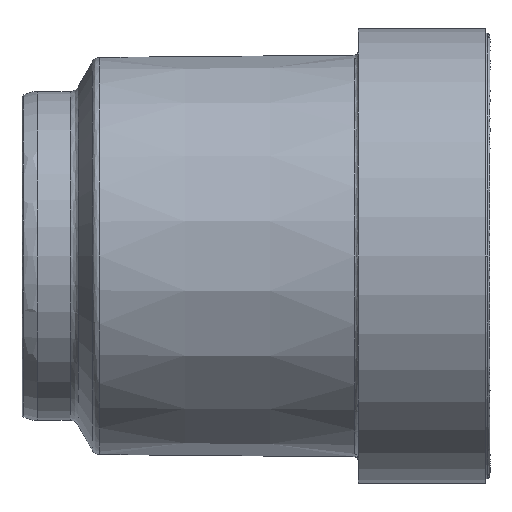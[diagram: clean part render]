
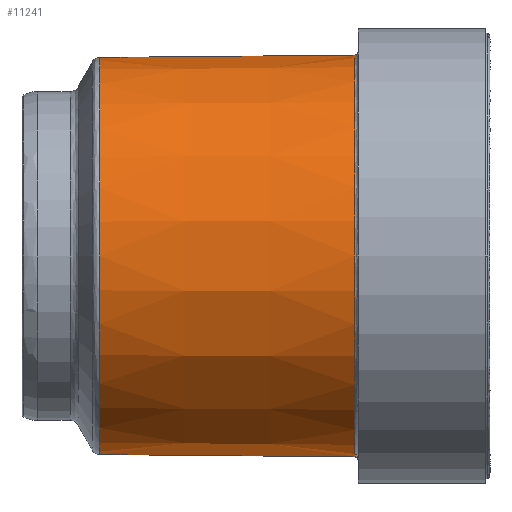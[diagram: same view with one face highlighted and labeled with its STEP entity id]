
A CAD part, front view. The second image highlights one B-rep face of the part: STEP entity #11241.
In plain terms, the highlighted conical face has half-angle 0.5 degrees and reference radius 10.926 mm.
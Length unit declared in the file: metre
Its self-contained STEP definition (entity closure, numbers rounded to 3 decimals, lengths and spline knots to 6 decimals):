
#2399 = LINE ( 'NONE', #10498, #16251 ) ;
#2693 = VERTEX_POINT ( 'NONE', #14011 ) ;
#2958 = EDGE_CURVE ( 'NONE', #4735, #2693, #4618, .T. ) ;
#3340 = CARTESIAN_POINT ( 'NONE',  ( 0.004289, 0., 0.010926 ) ) ;
#3366 = DIRECTION ( 'NONE',  ( 0., 0., 1. ) ) ;
#3382 = VERTEX_POINT ( 'NONE', #16835 ) ;
#3549 = AXIS2_PLACEMENT_3D ( 'NONE', #20234, #3589, #3366 ) ;
#3589 = DIRECTION ( 'NONE',  ( -1., 0., 0. ) ) ;
#4287 = DIRECTION ( 'NONE',  ( 0., 0., -1. ) ) ;
#4618 = LINE ( 'NONE', #11956, #21577 ) ;
#4735 = VERTEX_POINT ( 'NONE', #3340 ) ;
#6452 = ORIENTED_EDGE ( 'NONE', *, *, #18753, .F. ) ;
#6511 = CONICAL_SURFACE ( 'NONE', #12697, 0.010926, 0.009 ) ;
#7540 = CARTESIAN_POINT ( 'NONE',  ( 0.004289, 0., 0. ) ) ;
#8180 = EDGE_CURVE ( 'NONE', #2693, #3382, #12627, .T. ) ;
#8502 = EDGE_CURVE ( 'NONE', #20450, #3382, #2399, .T. ) ;
#9146 = CIRCLE ( 'NONE', #3549, 0.010926 ) ;
#10498 = CARTESIAN_POINT ( 'NONE',  ( 0.004289, 0., -0.010926 ) ) ;
#10648 = DIRECTION ( 'NONE',  ( 0., 0., -1. ) ) ;
#11241 = ADVANCED_FACE ( 'NONE', ( #11466 ), #6511, .T. ) ;
#11466 = FACE_OUTER_BOUND ( 'NONE', #15700, .T. ) ;
#11956 = CARTESIAN_POINT ( 'NONE',  ( 0.004289, 0., 0.010926 ) ) ;
#12033 = DIRECTION ( 'NONE',  ( 1., 0., -0.009 ) ) ;
#12051 = ORIENTED_EDGE ( 'NONE', *, *, #8502, .T. ) ;
#12627 = CIRCLE ( 'NONE', #12733, 0.011048 ) ;
#12697 = AXIS2_PLACEMENT_3D ( 'NONE', #7540, #20956, #10648 ) ;
#12733 = AXIS2_PLACEMENT_3D ( 'NONE', #17483, #17413, #4287 ) ;
#14011 = CARTESIAN_POINT ( 'NONE',  ( 0.018302, 0., 0.011048 ) ) ;
#15700 = EDGE_LOOP ( 'NONE', ( #19345, #6452, #12051, #17152 ) ) ;
#16251 = VECTOR ( 'NONE', #12033, 1. ) ;
#16835 = CARTESIAN_POINT ( 'NONE',  ( 0.018302, 0., -0.011048 ) ) ;
#17152 = ORIENTED_EDGE ( 'NONE', *, *, #8180, .F. ) ;
#17413 = DIRECTION ( 'NONE',  ( 1., 0., 0. ) ) ;
#17483 = CARTESIAN_POINT ( 'NONE',  ( 0.018302, 0., 0. ) ) ;
#18753 = EDGE_CURVE ( 'NONE', #20450, #4735, #9146, .T. ) ;
#19345 = ORIENTED_EDGE ( 'NONE', *, *, #2958, .F. ) ;
#20234 = CARTESIAN_POINT ( 'NONE',  ( 0.004289, 0., 0. ) ) ;
#20366 = DIRECTION ( 'NONE',  ( 1., 0., 0.009 ) ) ;
#20450 = VERTEX_POINT ( 'NONE', #20478 ) ;
#20478 = CARTESIAN_POINT ( 'NONE',  ( 0.004289, 0., -0.010926 ) ) ;
#20956 = DIRECTION ( 'NONE',  ( 1., 0., 0. ) ) ;
#21577 = VECTOR ( 'NONE', #20366, 1. ) ;
